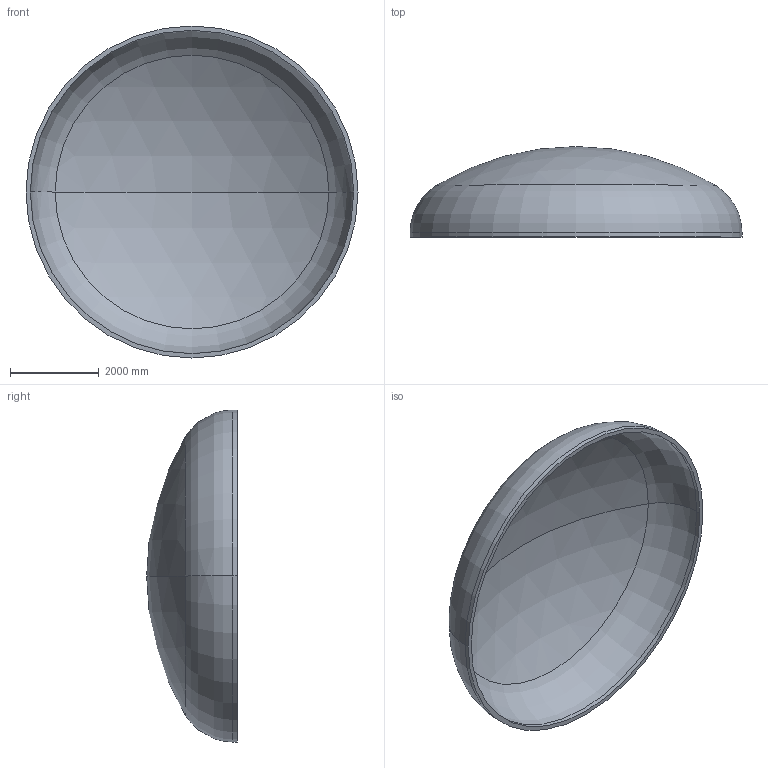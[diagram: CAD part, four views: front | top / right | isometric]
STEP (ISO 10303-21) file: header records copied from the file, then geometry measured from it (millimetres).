
FILE_DESCRIPTION (( 'STEP AP203' ), '1' );
FILE_NAME ('DIN 28013 Korbbogenform_-_Boden DIN 28013 - 7500 x 100 - I - s=98.step', '2016-07-04T10:56:53', ( '' ), ( '' ), 'SwSTEP 2.0', 'SolidWorks 2013', '' );
FILE_SCHEMA (( 'CONFIG_CONTROL_DESIGN' ));
Length unit declared in the file: millimetre
Products named in the file (1): DIN 28013 Korbbogenform_-_Boden DIN 28013 - 7500 x 100 - I - s=98
Bounding box: 7500 x 2046.01 x 7500 mm (x, y, z)
Volume: 6121524956.9 mm3; surface area: 127228046.2 mm2
Topology: 1 solids, 1 shells, 13 faces, 24 edges, 14 vertices
Faces by surface type: torus 4, cylinder 4, sphere 4, plane 1
Entity records: 407 total; most frequent: DIRECTION 72, CARTESIAN_POINT 52, ORIENTED_EDGE 48, AXIS2_PLACEMENT_3D 34, EDGE_CURVE 24, CIRCLE 20, EDGE_LOOP 14, VERTEX_POINT 14
